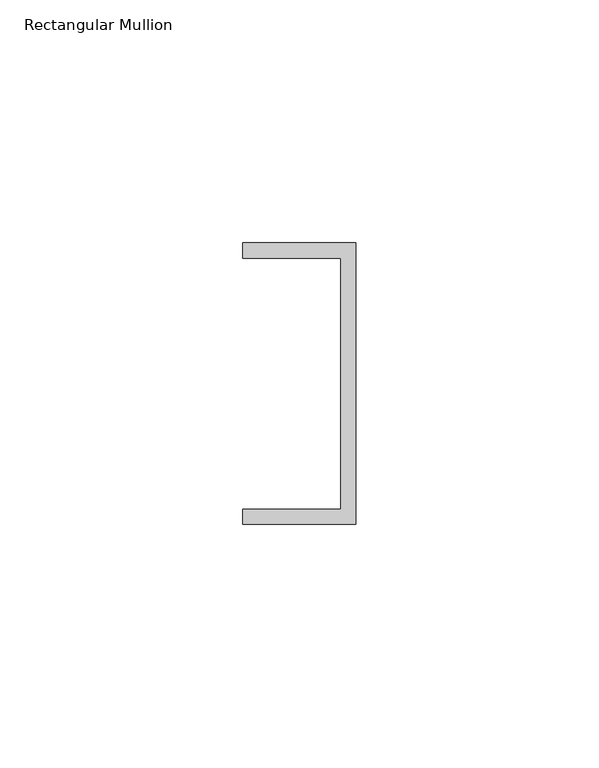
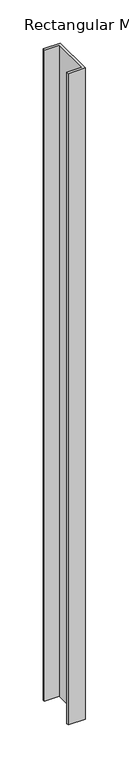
"""IFC4 building model written with IfcOpenShell, lengths in millimetres: member geometry, Rectangular Mullion : Frame-Teknion-Altos-Ceiling_Channel."""

from ifc_helpers import new_model, si_unit, frame, origin, place, context, project, spatial, polyline, outline, extrude, source, transform, mapped, element, save


def rectangular_mullion_64c34852(model_context):
    return source(origin(), model_context, "Body", "SweptSolid", [
        extrude(outline(polyline([(0.0, 29.0214844), (0.0, -29.0214844), (-23.3164063, -29.0214844), (-23.3164063, -25.8464844), (-3.175, -25.8464844), (-3.175, 25.8464844), (-23.3164063, 25.8464844), (-23.3164063, 29.0214844), (0.0, 29.0214844)])), frame((0.0, 0.0, -923.2304688), z_axis=(0.0, 0.0, 1.0), x_axis=(1.0, 0.0, 0.0)), (0.0, 0.0, 1.0), 923.2304688),
    ])


if __name__ == "__main__":
    model = new_model("IFC4")
    model_context = context("Model", 3, world=origin())
    ifc_project = project(units=[si_unit("LENGTHUNIT", "METRE", prefix="MILLI")], contexts=[model_context])
    site = spatial("IfcSite", under=ifc_project)
    building = spatial("IfcBuilding", under=site)
    placement = place(None, origin())
    rectangular_mullion_shape = rectangular_mullion_64c34852(model_context)
    element("IfcMember", 1, ObjectType="Rectangular Mullion : Frame-Teknion-Altos-Ceiling_Channel", at=placement, inside=building, context=model_context, shape_type="MappedRepresentation", body=[
        mapped(rectangular_mullion_shape, transform((0.0, 0.0, 0.0), x_axis=(1.0, 0.0, 0.0), y_axis=(0.0, 1.0, 0.0), z_axis=(0.0, 0.0, 1.0))),
    ])
    save(model, "model.ifc")
